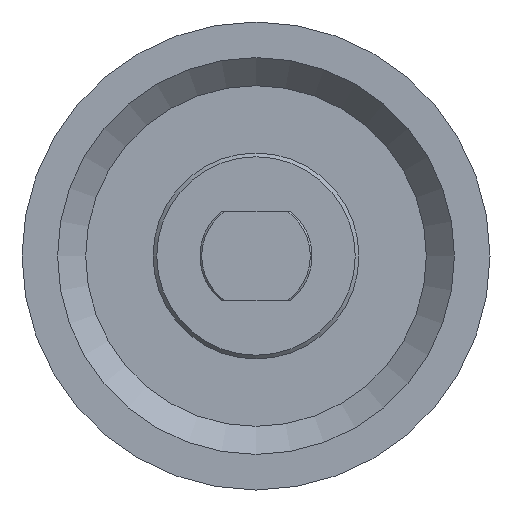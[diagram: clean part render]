
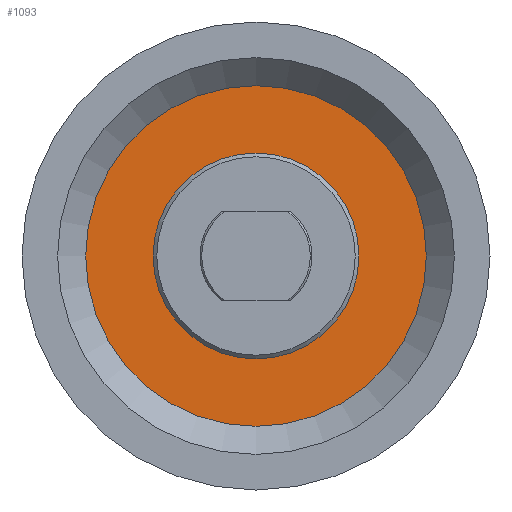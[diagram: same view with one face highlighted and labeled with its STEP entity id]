
A CAD part, left-side view. The second image highlights one B-rep face of the part: STEP entity #1093.
In plain terms, the highlighted planar face has unit normal (-1, 0, 0).
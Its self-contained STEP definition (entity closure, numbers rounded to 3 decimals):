
#85=FACE_BOUND('',#331,.T.);
#100=PLANE('',#1347);
#263=FACE_OUTER_BOUND('',#330,.T.);
#330=EDGE_LOOP('',(#839,#840));
#331=EDGE_LOOP('',(#841,#842));
#431=CIRCLE('',#1344,27.5);
#432=CIRCLE('',#1345,27.5);
#433=CIRCLE('',#1348,45.5);
#434=CIRCLE('',#1349,45.5);
#523=VERTEX_POINT('',#1952);
#524=VERTEX_POINT('',#1953);
#525=VERTEX_POINT('',#1960);
#526=VERTEX_POINT('',#1961);
#643=EDGE_CURVE('',#523,#524,#431,.T.);
#644=EDGE_CURVE('',#524,#523,#432,.T.);
#647=EDGE_CURVE('',#525,#526,#433,.T.);
#648=EDGE_CURVE('',#526,#525,#434,.T.);
#839=ORIENTED_EDGE('',*,*,#647,.F.);
#840=ORIENTED_EDGE('',*,*,#648,.F.);
#841=ORIENTED_EDGE('',*,*,#643,.T.);
#842=ORIENTED_EDGE('',*,*,#644,.T.);
#1093=ADVANCED_FACE('',(#263,#85),#100,.T.);
#1344=AXIS2_PLACEMENT_3D('',#1954,#1576,#1577);
#1345=AXIS2_PLACEMENT_3D('',#1955,#1578,#1579);
#1347=AXIS2_PLACEMENT_3D('',#1959,#1584,#1585);
#1348=AXIS2_PLACEMENT_3D('',#1962,#1586,#1587);
#1349=AXIS2_PLACEMENT_3D('',#1963,#1588,#1589);
#1576=DIRECTION('center_axis',(1.,0.,0.));
#1577=DIRECTION('ref_axis',(0.,0.,-1.));
#1578=DIRECTION('center_axis',(1.,0.,0.));
#1579=DIRECTION('ref_axis',(0.,0.,-1.));
#1584=DIRECTION('center_axis',(-1.,0.,0.));
#1585=DIRECTION('ref_axis',(0.,0.,1.));
#1586=DIRECTION('center_axis',(1.,0.,0.));
#1587=DIRECTION('ref_axis',(0.,0.,-1.));
#1588=DIRECTION('center_axis',(1.,0.,0.));
#1589=DIRECTION('ref_axis',(0.,0.,-1.));
#1952=CARTESIAN_POINT('',(-3.,27.5,0.));
#1953=CARTESIAN_POINT('',(-3.,-27.5,0.));
#1954=CARTESIAN_POINT('Origin',(-3.,0.,0.));
#1955=CARTESIAN_POINT('Origin',(-3.,0.,0.));
#1959=CARTESIAN_POINT('Origin',(-3.,45.5,0.));
#1960=CARTESIAN_POINT('',(-3.,45.5,0.));
#1961=CARTESIAN_POINT('',(-3.,-45.5,0.));
#1962=CARTESIAN_POINT('Origin',(-3.,0.,0.));
#1963=CARTESIAN_POINT('Origin',(-3.,0.,0.));
